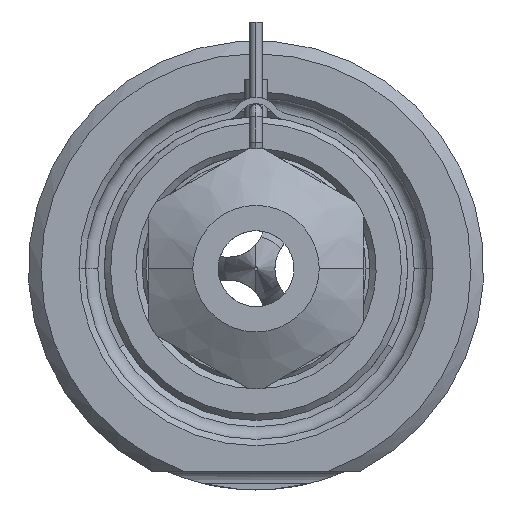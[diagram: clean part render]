
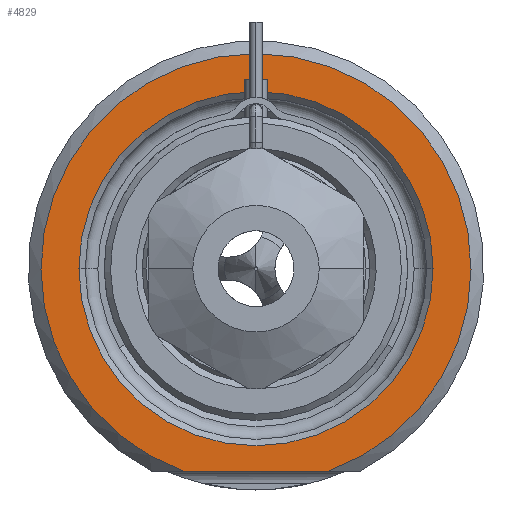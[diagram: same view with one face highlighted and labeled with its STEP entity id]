
A CAD part, front view. The second image highlights one B-rep face of the part: STEP entity #4829.
In plain terms, the highlighted planar face has unit normal (0, -1, 0).
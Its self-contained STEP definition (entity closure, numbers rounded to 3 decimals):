
#1277=CARTESIAN_POINT('',(0.,0.,0.));
#1278=DIRECTION('',(0.,-1.,0.));
#1279=DIRECTION('',(0.338,0.,-0.941));
#1280=AXIS2_PLACEMENT_3D('',#1277,#1278,#1279);
#1301=DIRECTION('',(1.,0.,0.));
#1302=VECTOR('',#1301,11.489);
#1303=CARTESIAN_POINT('',(-5.745,0.,-16.));
#1304=LINE('',#1303,#1302);
#1305=CARTESIAN_POINT('',(0.,0.,0.));
#1306=DIRECTION('',(0.,1.,0.));
#1307=DIRECTION('',(-1.,0.,0.));
#1308=AXIS2_PLACEMENT_3D('',#1305,#1306,#1307);
#1310=CARTESIAN_POINT('',(0.,0.,0.));
#1311=DIRECTION('',(0.,1.,0.));
#1312=DIRECTION('',(1.,0.,0.));
#1313=AXIS2_PLACEMENT_3D('',#1310,#1311,#1312);
#2992=CARTESIAN_POINT('',(-14.,0.,0.));
#2993=CARTESIAN_POINT('',(14.,0.,0.));
#2994=VERTEX_POINT('',#2992);
#2995=VERTEX_POINT('',#2993);
#3032=CARTESIAN_POINT('',(-5.745,0.,-16.));
#3033=CARTESIAN_POINT('',(5.745,0.,-16.));
#3034=VERTEX_POINT('',#3032);
#3035=VERTEX_POINT('',#3033);
#4814=CARTESIAN_POINT('',(0.,0.,0.));
#4815=DIRECTION('',(0.,-1.,0.));
#4816=DIRECTION('',(1.,0.,0.));
#4817=AXIS2_PLACEMENT_3D('',#4814,#4815,#4816);
#4818=PLANE('',#4817);
#4819=ORIENTED_EDGE('',*,*,#4746,.F.);
#4820=ORIENTED_EDGE('',*,*,#4806,.F.);
#4821=EDGE_LOOP('',(#4819,#4820));
#4822=FACE_OUTER_BOUND('',#4821,.F.);
#4824=ORIENTED_EDGE('',*,*,#4823,.F.);
#4826=ORIENTED_EDGE('',*,*,#4825,.F.);
#4827=EDGE_LOOP('',(#4824,#4826));
#4828=FACE_BOUND('',#4827,.F.);
#4829=ADVANCED_FACE('',(#4822,#4828),#4818,.T.);
#1281=CIRCLE('',#1280,17.);
#1309=CIRCLE('',#1308,14.);
#1314=CIRCLE('',#1313,14.);
#4746=EDGE_CURVE('',#3034,#3035,#1304,.T.);
#4806=EDGE_CURVE('',#3035,#3034,#1281,.T.);
#4823=EDGE_CURVE('',#2994,#2995,#1309,.T.);
#4825=EDGE_CURVE('',#2995,#2994,#1314,.T.);
